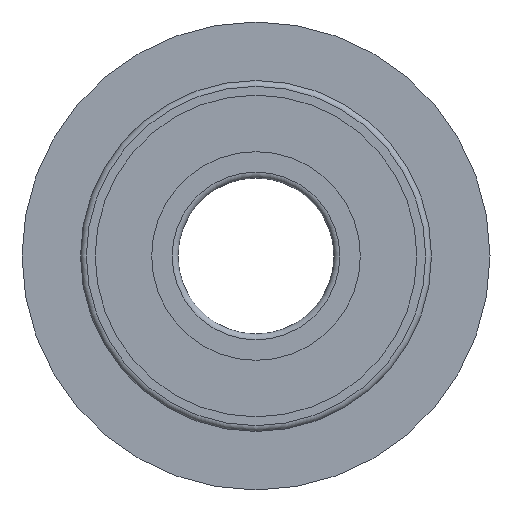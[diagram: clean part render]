
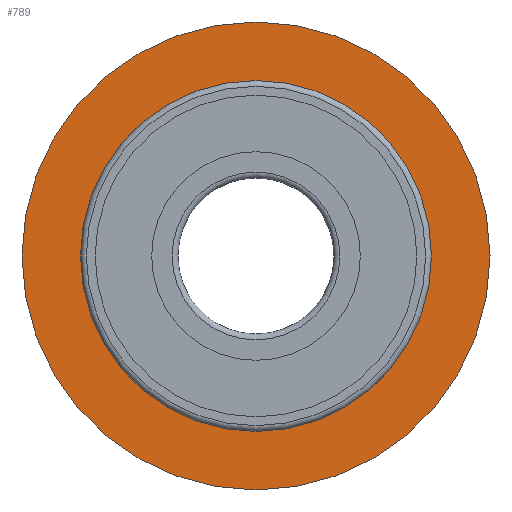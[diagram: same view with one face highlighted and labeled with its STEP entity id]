
A CAD part, left-side view. The second image highlights one B-rep face of the part: STEP entity #789.
In plain terms, the highlighted planar face has unit normal (-1, 0, 0).
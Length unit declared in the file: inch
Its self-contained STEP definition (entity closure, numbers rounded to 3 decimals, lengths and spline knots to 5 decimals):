
#762=CARTESIAN_POINT('',(113.41139,118.47152,0.));
#763=VERTEX_POINT('',#762);
#764=CARTESIAN_POINT('',(113.41139,112.47152,0.));
#765=DIRECTION('',(1.,0.,0.));
#766=DIRECTION('',(0.,1.,0.));
#767=AXIS2_PLACEMENT_3D('',#764,#765,#766);
#768=CIRCLE('',#767,6.);
#769=EDGE_CURVE('',#763,#763,#768,.T.);
#770=ORIENTED_EDGE('',*,*,#769,.F.);
#771=EDGE_LOOP('',(#770));
#772=FACE_OUTER_BOUND('',#771,.T.);
#773=CARTESIAN_POINT('',(113.41139,116.97152,0.));
#774=VERTEX_POINT('',#773);
#775=CARTESIAN_POINT('',(113.41139,112.47152,0.));
#776=DIRECTION('',(1.,0.,0.));
#777=DIRECTION('',(0.,1.,0.));
#778=AXIS2_PLACEMENT_3D('',#775,#776,#777);
#779=CIRCLE('',#778,4.5);
#780=EDGE_CURVE('',#774,#774,#779,.T.);
#781=ORIENTED_EDGE('',*,*,#780,.T.);
#782=EDGE_LOOP('',(#781));
#783=FACE_BOUND('',#782,.T.);
#784=CARTESIAN_POINT('',(113.41139,117.72152,0.));
#785=DIRECTION('',(-1.,0.,0.));
#786=DIRECTION('',(0.,-1.,0.));
#787=AXIS2_PLACEMENT_3D('',#784,#785,#786);
#788=PLANE('',#787);
#789=ADVANCED_FACE('',(#772,#783),#788,.T.);
